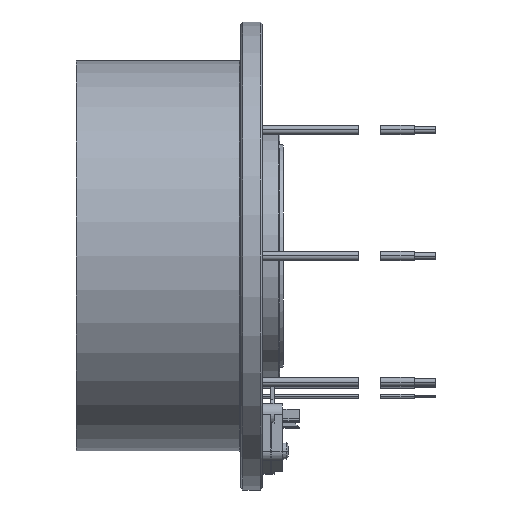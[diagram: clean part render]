
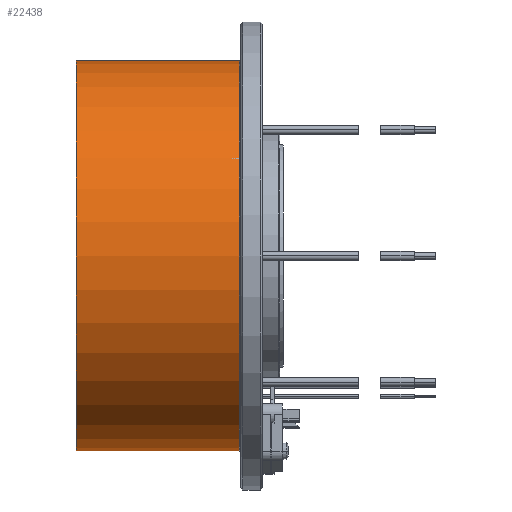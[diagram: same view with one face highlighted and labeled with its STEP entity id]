
A CAD part, front view. The second image highlights one B-rep face of the part: STEP entity #22438.
In plain terms, the highlighted cylindrical face has radius 45 mm (diameter 90 mm), a partial arc.
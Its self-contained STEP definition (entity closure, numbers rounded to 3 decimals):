
#2794=CARTESIAN_POINT('',(-5.3,0.,0.));
#2795=DIRECTION('',(-1.,0.,0.));
#2796=DIRECTION('',(0.,0.,-1.));
#2797=AXIS2_PLACEMENT_3D('',#2794,#2795,#2796);
#2810=DIRECTION('',(-1.,0.,0.));
#2811=VECTOR('',#2810,37.7);
#2812=CARTESIAN_POINT('',(-5.3,0.,-45.));
#2813=LINE('',#2812,#2811);
#2817=DIRECTION('',(-1.,0.,0.));
#2818=VECTOR('',#2817,37.7);
#2819=CARTESIAN_POINT('',(-5.3,0.,45.));
#2820=LINE('',#2819,#2818);
#2824=CARTESIAN_POINT('',(-43.,0.,0.));
#2825=DIRECTION('',(1.,0.,0.));
#2826=DIRECTION('',(0.,0.,1.));
#2827=AXIS2_PLACEMENT_3D('',#2824,#2825,#2826);
#18465=CARTESIAN_POINT('',(-5.3,0.,45.));
#18466=VERTEX_POINT('',#18465);
#18467=CARTESIAN_POINT('',(-5.3,0.,-45.));
#18468=VERTEX_POINT('',#18467);
#18469=CARTESIAN_POINT('',(-43.,0.,-45.));
#18470=VERTEX_POINT('',#18469);
#18471=CARTESIAN_POINT('',(-43.,0.,45.));
#18472=VERTEX_POINT('',#18471);
#22424=CARTESIAN_POINT('',(-45.15,0.,0.));
#22425=DIRECTION('',(1.,0.,0.));
#22426=DIRECTION('',(0.,0.,-1.));
#22427=AXIS2_PLACEMENT_3D('',#22424,#22425,#22426);
#22428=CYLINDRICAL_SURFACE('',#22427,45.);
#22430=ORIENTED_EDGE('',*,*,#22429,.T.);
#22432=ORIENTED_EDGE('',*,*,#22431,.F.);
#22434=ORIENTED_EDGE('',*,*,#22433,.F.);
#22435=ORIENTED_EDGE('',*,*,#22418,.F.);
#22436=EDGE_LOOP('',(#22430,#22432,#22434,#22435));
#22437=FACE_OUTER_BOUND('',#22436,.F.);
#22438=ADVANCED_FACE('',(#22437),#22428,.T.);
#2798=CIRCLE('',#2797,45.);
#2828=CIRCLE('',#2827,45.);
#22418=EDGE_CURVE('',#18468,#18466,#2798,.T.);
#22429=EDGE_CURVE('',#18468,#18470,#2813,.T.);
#22431=EDGE_CURVE('',#18472,#18470,#2828,.T.);
#22433=EDGE_CURVE('',#18466,#18472,#2820,.T.);
